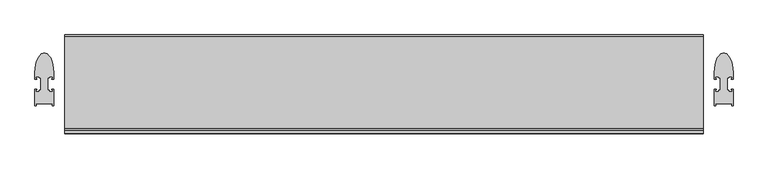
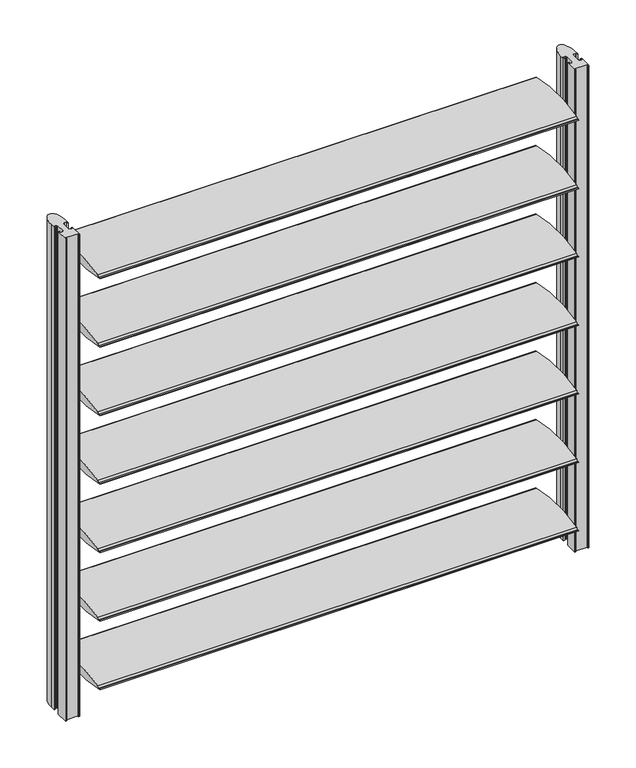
"""IFC4 building model written with IfcOpenShell, lengths in millimetres: proxy geometry, FSB_horizotal : FSB_horizotal_290."""

from ifc_helpers import new_model, si_unit, point, frame, frame_2d, origin, place, context, project, spatial, polyline, circle_curve, ellipse_curve, trimmed, segment, composite_curve, outline, extrude, source, transform, mapped, element, save
from ifc_brep_helpers import plane_surface, cylinder_surface, extruded_surface, advanced_brep


def generic_models_9e7b77c4(model_context):
    return source(origin(), model_context, "Body", "SolidModel", [
        extrude(outline(composite_curve([segment(polyline([(-145.0821859, 149.7498369), (-144.3894327, 151.8390481)]), True, "CONTINUOUS"), segment(trimmed(circle_curve(frame_2d((54.5219163, 833.1650578)), 709.7681707), [point((-144.3894327, 151.8390481))], [point((-136.4210644, 149.5631017))], True, "CARTESIAN"), True, "CONTINUOUS"), segment(trimmed(circle_curve(frame_2d((-126.8817007, 146.5663466)), 9.999), [point((-136.4210644, 149.5631017))], [point((-129.1273945, 156.3099014))], False, "CARTESIAN"), True, "CONTINUOUS"), segment(trimmed(circle_curve(frame_2d((0.0, -403.9445)), 574.9425), [point((-129.1273945, 156.3099014))], [point((140.8299634, 153.4833426))], False, "CARTESIAN"), True, "CONTINUOUS"), segment(trimmed(circle_curve(frame_2d((-57.8909579, -539.6333502)), 721.0414373), [point((140.8299634, 153.4833426))], [point((145.082804, 152.2498816))], False, "CARTESIAN"), True, "CONTINUOUS"), segment(polyline([(145.082804, 152.2498816), (144.3900508, 150.1606703)]), True, "CONTINUOUS"), segment(trimmed(circle_curve(frame_2d((-54.5212982, -531.1653394)), 709.7681707), [point((144.3900508, 150.1606703))], [point((136.4216898, 152.4366147))], True, "CARTESIAN"), True, "CONTINUOUS"), segment(trimmed(circle_curve(frame_2d((126.882471, 155.4338309)), 9.999), [point((136.4216898, 152.4366147))], [point((129.1281785, 145.6902793))], False, "CARTESIAN"), True, "CONTINUOUS"), segment(trimmed(circle_curve(frame_2d((0.0, 705.9445)), 574.9425), [point((129.1281785, 145.6902793))], [point((-140.7776523, 148.503444))], False, "CARTESIAN"), True, "CONTINUOUS"), segment(trimmed(circle_curve(frame_2d((104.6410215, 1004.135898)), 890.1332607), [point((-140.7776523, 148.503444))], [point((-145.0821859, 149.7498369))], False, "CARTESIAN"), True, "CONTINUOUS")], self_intersect=False)), frame((-939.5, 0.0, 0.0), z_axis=(1.0, 0.0, 0.0), x_axis=(0.0, 1.0, 0.0)), (0.0, 0.0, 1.0), 1879.0),
        extrude(outline(composite_curve([segment(polyline([(-145.0821859, 433.7498369), (-144.3894327, 435.8390481)]), True, "CONTINUOUS"), segment(trimmed(circle_curve(frame_2d((54.5219163, 1117.1650578)), 709.7681707), [point((-144.3894327, 435.8390481))], [point((-136.4210644, 433.5631017))], True, "CARTESIAN"), True, "CONTINUOUS"), segment(trimmed(circle_curve(frame_2d((-126.8817007, 430.5663466)), 9.999), [point((-136.4210644, 433.5631017))], [point((-129.1273945, 440.3099014))], False, "CARTESIAN"), True, "CONTINUOUS"), segment(trimmed(circle_curve(frame_2d((0.0, -119.9445)), 574.9425), [point((-129.1273945, 440.3099014))], [point((140.8299634, 437.4833426))], False, "CARTESIAN"), True, "CONTINUOUS"), segment(trimmed(circle_curve(frame_2d((-57.8909579, -255.6333502)), 721.0414373), [point((140.8299634, 437.4833426))], [point((145.082804, 436.2498816))], False, "CARTESIAN"), True, "CONTINUOUS"), segment(polyline([(145.082804, 436.2498816), (144.3900508, 434.1606703)]), True, "CONTINUOUS"), segment(trimmed(circle_curve(frame_2d((-54.5212982, -247.1653394)), 709.7681707), [point((144.3900508, 434.1606703))], [point((136.4216898, 436.4366147))], True, "CARTESIAN"), True, "CONTINUOUS"), segment(trimmed(circle_curve(frame_2d((126.882471, 439.4338309)), 9.999), [point((136.4216898, 436.4366147))], [point((129.1281785, 429.6902793))], False, "CARTESIAN"), True, "CONTINUOUS"), segment(trimmed(circle_curve(frame_2d((0.0, 989.9445)), 574.9425), [point((129.1281785, 429.6902793))], [point((-140.7776523, 432.503444))], False, "CARTESIAN"), True, "CONTINUOUS"), segment(trimmed(circle_curve(frame_2d((104.6410215, 1288.135898)), 890.1332607), [point((-140.7776523, 432.503444))], [point((-145.0821859, 433.7498369))], False, "CARTESIAN"), True, "CONTINUOUS")], self_intersect=False)), frame((-939.5, 0.0, 0.0), z_axis=(1.0, 0.0, 0.0), x_axis=(0.0, 1.0, 0.0)), (0.0, 0.0, 1.0), 1879.0),
        extrude(outline(composite_curve([segment(polyline([(-145.0821859, 717.7498369), (-144.3894327, 719.8390481)]), True, "CONTINUOUS"), segment(trimmed(circle_curve(frame_2d((54.5219163, 1401.1650578)), 709.7681707), [point((-144.3894327, 719.8390481))], [point((-136.4210644, 717.5631017))], True, "CARTESIAN"), True, "CONTINUOUS"), segment(trimmed(circle_curve(frame_2d((-126.8817007, 714.5663466)), 9.999), [point((-136.4210644, 717.5631017))], [point((-129.1273945, 724.3099014))], False, "CARTESIAN"), True, "CONTINUOUS"), segment(trimmed(circle_curve(frame_2d((0.0, 164.0555)), 574.9425), [point((-129.1273945, 724.3099014))], [point((140.8299634, 721.4833426))], False, "CARTESIAN"), True, "CONTINUOUS"), segment(trimmed(circle_curve(frame_2d((-57.8909579, 28.3666498)), 721.0414373), [point((140.8299634, 721.4833426))], [point((145.082804, 720.2498816))], False, "CARTESIAN"), True, "CONTINUOUS"), segment(polyline([(145.082804, 720.2498816), (144.3900508, 718.1606703)]), True, "CONTINUOUS"), segment(trimmed(circle_curve(frame_2d((-54.5212982, 36.8346606)), 709.7681707), [point((144.3900508, 718.1606703))], [point((136.4216898, 720.4366147))], True, "CARTESIAN"), True, "CONTINUOUS"), segment(trimmed(circle_curve(frame_2d((126.882471, 723.4338309)), 9.999), [point((136.4216898, 720.4366147))], [point((129.1281785, 713.6902793))], False, "CARTESIAN"), True, "CONTINUOUS"), segment(trimmed(circle_curve(frame_2d((0.0, 1273.9445)), 574.9425), [point((129.1281785, 713.6902793))], [point((-140.7776523, 716.503444))], False, "CARTESIAN"), True, "CONTINUOUS"), segment(trimmed(circle_curve(frame_2d((104.6410215, 1572.135898)), 890.1332607), [point((-140.7776523, 716.503444))], [point((-145.0821859, 717.7498369))], False, "CARTESIAN"), True, "CONTINUOUS")], self_intersect=False)), frame((-939.5, 0.0, 0.0), z_axis=(1.0, 0.0, 0.0), x_axis=(0.0, 1.0, 0.0)), (0.0, 0.0, 1.0), 1879.0),
        extrude(outline(composite_curve([segment(polyline([(-145.0821859, 1001.7498369), (-144.3894327, 1003.8390481)]), True, "CONTINUOUS"), segment(trimmed(circle_curve(frame_2d((54.5219163, 1685.1650578)), 709.7681707), [point((-144.3894327, 1003.8390481))], [point((-136.4210644, 1001.5631017))], True, "CARTESIAN"), True, "CONTINUOUS"), segment(trimmed(circle_curve(frame_2d((-126.8817007, 998.5663466)), 9.999), [point((-136.4210644, 1001.5631017))], [point((-129.1273945, 1008.3099014))], False, "CARTESIAN"), True, "CONTINUOUS"), segment(trimmed(circle_curve(frame_2d((0.0, 448.0555)), 574.9425), [point((-129.1273945, 1008.3099014))], [point((140.8299634, 1005.4833426))], False, "CARTESIAN"), True, "CONTINUOUS"), segment(trimmed(circle_curve(frame_2d((-57.8909579, 312.3666498)), 721.0414373), [point((140.8299634, 1005.4833426))], [point((145.082804, 1004.2498816))], False, "CARTESIAN"), True, "CONTINUOUS"), segment(polyline([(145.082804, 1004.2498816), (144.3900508, 1002.1606703)]), True, "CONTINUOUS"), segment(trimmed(circle_curve(frame_2d((-54.5212982, 320.8346606)), 709.7681707), [point((144.3900508, 1002.1606703))], [point((136.4216898, 1004.4366147))], True, "CARTESIAN"), True, "CONTINUOUS"), segment(trimmed(circle_curve(frame_2d((126.882471, 1007.4338309)), 9.999), [point((136.4216898, 1004.4366147))], [point((129.1281785, 997.6902793))], False, "CARTESIAN"), True, "CONTINUOUS"), segment(trimmed(circle_curve(frame_2d((0.0, 1557.9445)), 574.9425), [point((129.1281785, 997.6902793))], [point((-140.7776523, 1000.503444))], False, "CARTESIAN"), True, "CONTINUOUS"), segment(trimmed(circle_curve(frame_2d((104.6410215, 1856.135898)), 890.1332607), [point((-140.7776523, 1000.503444))], [point((-145.0821859, 1001.7498369))], False, "CARTESIAN"), True, "CONTINUOUS")], self_intersect=False)), frame((-939.5, 0.0, 0.0), z_axis=(1.0, 0.0, 0.0), x_axis=(0.0, 1.0, 0.0)), (0.0, 0.0, 1.0), 1879.0),
        extrude(outline(composite_curve([segment(polyline([(-145.0821859, 1285.7498369), (-144.3894327, 1287.8390481)]), True, "CONTINUOUS"), segment(trimmed(circle_curve(frame_2d((54.5219163, 1969.1650578)), 709.7681707), [point((-144.3894327, 1287.8390481))], [point((-136.4210644, 1285.5631017))], True, "CARTESIAN"), True, "CONTINUOUS"), segment(trimmed(circle_curve(frame_2d((-126.8817007, 1282.5663466)), 9.999), [point((-136.4210644, 1285.5631017))], [point((-129.1273945, 1292.3099014))], False, "CARTESIAN"), True, "CONTINUOUS"), segment(trimmed(circle_curve(frame_2d((0.0, 732.0555)), 574.9425), [point((-129.1273945, 1292.3099014))], [point((140.8299634, 1289.4833426))], False, "CARTESIAN"), True, "CONTINUOUS"), segment(trimmed(circle_curve(frame_2d((-57.8909579, 596.3666498)), 721.0414373), [point((140.8299634, 1289.4833426))], [point((145.082804, 1288.2498816))], False, "CARTESIAN"), True, "CONTINUOUS"), segment(polyline([(145.082804, 1288.2498816), (144.3900508, 1286.1606703)]), True, "CONTINUOUS"), segment(trimmed(circle_curve(frame_2d((-54.5212982, 604.8346606)), 709.7681707), [point((144.3900508, 1286.1606703))], [point((136.4216898, 1288.4366147))], True, "CARTESIAN"), True, "CONTINUOUS"), segment(trimmed(circle_curve(frame_2d((126.882471, 1291.4338309)), 9.999), [point((136.4216898, 1288.4366147))], [point((129.1281785, 1281.6902793))], False, "CARTESIAN"), True, "CONTINUOUS"), segment(trimmed(circle_curve(frame_2d((0.0, 1841.9445)), 574.9425), [point((129.1281785, 1281.6902793))], [point((-140.7776523, 1284.503444))], False, "CARTESIAN"), True, "CONTINUOUS"), segment(trimmed(circle_curve(frame_2d((104.6410215, 2140.135898)), 890.1332607), [point((-140.7776523, 1284.503444))], [point((-145.0821859, 1285.7498369))], False, "CARTESIAN"), True, "CONTINUOUS")], self_intersect=False)), frame((-939.5, 0.0, 0.0), z_axis=(1.0, 0.0, 0.0), x_axis=(0.0, 1.0, 0.0)), (0.0, 0.0, 1.0), 1879.0),
        extrude(outline(composite_curve([segment(polyline([(-145.0821859, 1569.7498369), (-144.3894327, 1571.8390481)]), True, "CONTINUOUS"), segment(trimmed(circle_curve(frame_2d((54.5219163, 2253.1650578)), 709.7681707), [point((-144.3894327, 1571.8390481))], [point((-136.4210644, 1569.5631017))], True, "CARTESIAN"), True, "CONTINUOUS"), segment(trimmed(circle_curve(frame_2d((-126.8817007, 1566.5663466)), 9.999), [point((-136.4210644, 1569.5631017))], [point((-129.1273945, 1576.3099014))], False, "CARTESIAN"), True, "CONTINUOUS"), segment(trimmed(circle_curve(frame_2d((0.0, 1016.0555)), 574.9425), [point((-129.1273945, 1576.3099014))], [point((140.8299634, 1573.4833426))], False, "CARTESIAN"), True, "CONTINUOUS"), segment(trimmed(circle_curve(frame_2d((-57.8909579, 880.3666498)), 721.0414373), [point((140.8299634, 1573.4833426))], [point((145.082804, 1572.2498816))], False, "CARTESIAN"), True, "CONTINUOUS"), segment(polyline([(145.082804, 1572.2498816), (144.3900508, 1570.1606703)]), True, "CONTINUOUS"), segment(trimmed(circle_curve(frame_2d((-54.5212982, 888.8346606)), 709.7681707), [point((144.3900508, 1570.1606703))], [point((136.4216898, 1572.4366147))], True, "CARTESIAN"), True, "CONTINUOUS"), segment(trimmed(circle_curve(frame_2d((126.882471, 1575.4338309)), 9.999), [point((136.4216898, 1572.4366147))], [point((129.1281785, 1565.6902793))], False, "CARTESIAN"), True, "CONTINUOUS"), segment(trimmed(circle_curve(frame_2d((0.0, 2125.9445)), 574.9425), [point((129.1281785, 1565.6902793))], [point((-140.7776523, 1568.503444))], False, "CARTESIAN"), True, "CONTINUOUS"), segment(trimmed(circle_curve(frame_2d((104.6410215, 2424.135898)), 890.1332607), [point((-140.7776523, 1568.503444))], [point((-145.0821859, 1569.7498369))], False, "CARTESIAN"), True, "CONTINUOUS")], self_intersect=False)), frame((-939.5, 0.0, 0.0), z_axis=(1.0, 0.0, 0.0), x_axis=(0.0, 1.0, 0.0)), (0.0, 0.0, 1.0), 1879.0),
        extrude(outline(composite_curve([segment(polyline([(-145.0821859, 1853.7498369), (-144.3894327, 1855.8390481)]), True, "CONTINUOUS"), segment(trimmed(circle_curve(frame_2d((54.5219163, 2537.1650578)), 709.7681707), [point((-144.3894327, 1855.8390481))], [point((-136.4210644, 1853.5631017))], True, "CARTESIAN"), True, "CONTINUOUS"), segment(trimmed(circle_curve(frame_2d((-126.8817007, 1850.5663466)), 9.999), [point((-136.4210644, 1853.5631017))], [point((-129.1273945, 1860.3099014))], False, "CARTESIAN"), True, "CONTINUOUS"), segment(trimmed(circle_curve(frame_2d((0.0, 1300.0555)), 574.9425), [point((-129.1273945, 1860.3099014))], [point((140.8299634, 1857.4833426))], False, "CARTESIAN"), True, "CONTINUOUS"), segment(trimmed(circle_curve(frame_2d((-57.8909579, 1164.3666498)), 721.0414373), [point((140.8299634, 1857.4833426))], [point((145.082804, 1856.2498816))], False, "CARTESIAN"), True, "CONTINUOUS"), segment(polyline([(145.082804, 1856.2498816), (144.3900508, 1854.1606703)]), True, "CONTINUOUS"), segment(trimmed(circle_curve(frame_2d((-54.5212982, 1172.8346606)), 709.7681707), [point((144.3900508, 1854.1606703))], [point((136.4216898, 1856.4366147))], True, "CARTESIAN"), True, "CONTINUOUS"), segment(trimmed(circle_curve(frame_2d((126.882471, 1859.4338309)), 9.999), [point((136.4216898, 1856.4366147))], [point((129.1281785, 1849.6902793))], False, "CARTESIAN"), True, "CONTINUOUS"), segment(trimmed(circle_curve(frame_2d((0.0, 2409.9445)), 574.9425), [point((129.1281785, 1849.6902793))], [point((-140.7776523, 1852.503444))], False, "CARTESIAN"), True, "CONTINUOUS"), segment(trimmed(circle_curve(frame_2d((104.6410215, 2708.135898)), 890.1332607), [point((-140.7776523, 1852.503444))], [point((-145.0821859, 1853.7498369))], False, "CARTESIAN"), True, "CONTINUOUS")], self_intersect=False)), frame((-939.5, 0.0, 0.0), z_axis=(1.0, 0.0, 0.0), x_axis=(0.0, 1.0, 0.0)), (0.0, 0.0, 1.0), 1879.0),
        advanced_brep(
        [(972.5005731, 35.515, 0.0), (1027.5000975, 35.515, 0.0), (1027.5000975, 14.55, 0.0), (1022.4, 14.55, 0.0), (1022.4, 16.55, 0.0), (1024.5000975, 16.55, 0.0), (1025.5000975, 17.55, 0.0), (1025.5000975, 22.175, 0.0), (1014.05, 22.175, 0.0), (1014.05, 18.5225, 0.0), (1011.0, 18.5225, 0.0), (1011.0, -18.5225, 0.0), (1014.05, -18.5225, 0.0), (1014.05, -22.175, 0.0), (1025.3000975, -22.175, 0.0), (1025.3000975, -17.55, 0.0), (1024.3000975, -16.55, 0.0), (1022.4, -16.55, 0.0), (1022.4, -14.55, 0.0), (1027.5000975, -14.55, 0.0), (1027.5000975, -63.0727525, 0.0), (1024.0000975, -63.0727525, 0.0), (1023.0000975, -62.0727525, 0.0), (1023.0000975, -60.5727525, 0.0), (1025.0000975, -60.5727525, 0.0), (1025.0000975, -57.5727525, 0.0), (974.9999025, -57.5727525, 0.0), (974.9999025, -60.5727525, 0.0), (976.9999025, -60.5727525, 0.0), (976.9999025, -62.0727525, 0.0), (975.9999025, -63.0727525, 0.0), (972.4999025, -63.0727525, 0.0), (972.4999025, -14.55, 0.0), (977.6, -14.55, 0.0), (977.6, -16.55, 0.0), (975.6999025, -16.55, 0.0), (974.6999025, -17.55, 0.0), (974.6999025, -22.175, 0.0), (985.95, -22.175, 0.0), (985.95, -18.5225, 0.0), (989.0, -18.5225, 0.0), (989.0, 18.5225, 0.0), (985.95, 18.5225, 0.0), (985.95, 22.175, 0.0), (974.4999025, 22.175, 0.0), (974.4999025, 17.55, 0.0), (975.4999025, 16.55, 0.0), (977.6, 16.55, 0.0), (977.6, 14.55, 0.0), (972.5005731, 14.55, 0.0), (972.5005731, 35.515, 2000.0), (972.5005731, 14.55, 2000.0), (977.6, 14.55, 2000.0), (977.6, 16.55, 2000.0), (975.4999025, 16.55, 2000.0), (974.4999025, 17.55, 2000.0), (974.4999025, 22.175, 2000.0), (985.95, 22.175, 2000.0), (985.95, 18.5225, 2000.0), (989.0, 18.5225, 2000.0), (989.0, -18.5225, 2000.0), (985.95, -18.5225, 2000.0), (985.95, -22.175, 2000.0), (974.6999025, -22.175, 2000.0), (974.6999025, -17.55, 2000.0), (975.6999025, -16.55, 2000.0), (977.6, -16.55, 2000.0), (977.6, -14.55, 2000.0), (972.4999025, -14.55, 2000.0), (972.4999025, -63.0727525, 2000.0), (975.9999025, -63.0727525, 2000.0), (976.9999025, -62.0727525, 2000.0), (976.9999025, -60.5727525, 2000.0), (974.9999025, -60.5727525, 2000.0), (974.9999025, -57.5727525, 2000.0), (1025.0000975, -57.5727525, 2000.0), (1025.0000975, -60.5727525, 2000.0), (1023.0000975, -60.5727525, 2000.0), (1023.0000975, -62.0727525, 2000.0), (1024.0000975, -63.0727525, 2000.0), (1027.5000975, -63.0727525, 2000.0), (1027.5000975, -14.55, 2000.0), (1022.4, -14.55, 2000.0), (1022.4, -16.55, 2000.0), (1024.3000975, -16.55, 2000.0), (1025.3000975, -17.55, 2000.0), (1025.3000975, -22.175, 2000.0), (1014.05, -22.175, 2000.0), (1014.05, -18.5225, 2000.0), (1011.0, -18.5225, 2000.0), (1011.0, 18.5225, 2000.0), (1014.05, 18.5225, 2000.0), (1014.05, 22.175, 2000.0), (1025.5000975, 22.175, 2000.0), (1025.5000975, 17.55, 2000.0), (1024.5000975, 16.55, 2000.0), (1022.4, 16.55, 2000.0), (1022.4, 14.55, 2000.0), (1027.5000975, 14.55, 2000.0), (1027.5000975, 35.515, 2000.0)],
        [
            (0, 1, ellipse_curve(frame((1000.0003353, 35.515, 0.0), z_axis=(0.0, 0.0, -1.0), x_axis=(0.0, 1.0, 0.0)), 56.4122475, 27.4997622)),
            (1, 2),
            (2, 3),
            (3, 4),
            (4, 5),
            (5, 6),
            (6, 7),
            (7, 8),
            (8, 9),
            (9, 10),
            (10, 11),
            (11, 12),
            (12, 13),
            (13, 14),
            (14, 15),
            (15, 16),
            (16, 17),
            (17, 18),
            (18, 19),
            (19, 20),
            (20, 21),
            (21, 22, circle_curve(frame((1024.0000975, -62.0727525, 0.0), z_axis=(0.0, 0.0, -1.0), x_axis=(-1.0, 0.0, 0.0)), 1.0)),
            (22, 23),
            (23, 24),
            (24, 25),
            (25, 26),
            (26, 27),
            (27, 28),
            (28, 29),
            (29, 30, circle_curve(frame((975.9999025, -62.0727525, 0.0), z_axis=(0.0, 0.0, -1.0), x_axis=(0.0, -1.0, 0.0)), 1.0)),
            (30, 31),
            (31, 32),
            (32, 33),
            (33, 34),
            (34, 35),
            (35, 36),
            (36, 37),
            (37, 38),
            (38, 39),
            (39, 40),
            (40, 41),
            (41, 42),
            (42, 43),
            (43, 44),
            (44, 45),
            (45, 46),
            (46, 47),
            (47, 48),
            (48, 49),
            (49, 0),
            (50, 51),
            (51, 52),
            (52, 53),
            (53, 54),
            (54, 55),
            (55, 56),
            (56, 57),
            (57, 58),
            (58, 59),
            (59, 60),
            (60, 61),
            (61, 62),
            (62, 63),
            (63, 64),
            (64, 65),
            (65, 66),
            (66, 67),
            (67, 68),
            (68, 69),
            (69, 70),
            (70, 71, circle_curve(frame((975.9999025, -62.0727525, 2000.0), z_axis=(0.0, 0.0, 1.0), x_axis=(0.0, -1.0, 0.0)), 1.0)),
            (71, 72),
            (72, 73),
            (73, 74),
            (74, 75),
            (75, 76),
            (76, 77),
            (77, 78),
            (78, 79, circle_curve(frame((1024.0000975, -62.0727525, 2000.0), z_axis=(0.0, 0.0, 1.0), x_axis=(-1.0, 0.0, 0.0)), 1.0)),
            (79, 80),
            (80, 81),
            (81, 82),
            (82, 83),
            (83, 84),
            (84, 85),
            (85, 86),
            (86, 87),
            (87, 88),
            (88, 89),
            (89, 90),
            (90, 91),
            (91, 92),
            (92, 93),
            (93, 94),
            (94, 95),
            (95, 96),
            (96, 97),
            (97, 98),
            (98, 99),
            (99, 50, ellipse_curve(frame((1000.0003353, 35.515, 2000.0), z_axis=(0.0, 0.0, 1.0), x_axis=(0.0, 1.0, 0.0)), 56.4122475, 27.4997622)),
            (0, 50),
            (99, 1),
            (98, 2),
            (97, 3),
            (96, 4),
            (95, 5),
            (94, 6),
            (93, 7),
            (92, 8),
            (91, 9),
            (90, 10),
            (89, 11),
            (88, 12),
            (87, 13),
            (86, 14),
            (85, 15),
            (84, 16),
            (83, 17),
            (82, 18),
            (81, 19),
            (80, 20),
            (79, 21),
            (78, 22),
            (77, 23),
            (76, 24),
            (75, 25),
            (74, 26),
            (73, 27),
            (72, 28),
            (71, 29),
            (70, 30),
            (69, 31),
            (68, 32),
            (67, 33),
            (66, 34),
            (65, 35),
            (64, 36),
            (63, 37),
            (62, 38),
            (61, 39),
            (60, 40),
            (59, 41),
            (58, 42),
            (57, 43),
            (56, 44),
            (55, 45),
            (54, 46),
            (53, 47),
            (52, 48),
            (51, 49),
        ],
        [
            plane_surface(frame((1000.0, 0.0, 0.0), z_axis=(0.0, 0.0, -1.0), x_axis=(0.0, -1.0, 0.0))),
            plane_surface(frame((1000.0, 0.0, 2000.0), z_axis=(0.0, 0.0, 1.0), x_axis=(0.0, -1.0, 0.0))),
            extruded_surface(trimmed(ellipse_curve(frame((1000.0003353, 35.515, 2000.0), z_axis=(0.0, 0.0, -1.0), x_axis=(0.0, 1.0, 0.0)), 56.4122475, 27.4997622), [point((972.5005731, 35.515, 2000.0))], [point((1027.5000975, 35.515, 2000.0))], True, "CARTESIAN"), (0.0, 0.0, -2000.0), 2000.0),
            plane_surface(frame((1027.5000975, 35.515, 0.0), z_axis=(1.0, 0.0, 0.0), x_axis=(0.0, 0.0, 1.0))),
            plane_surface(frame((1027.5000975, 14.55, 0.0), z_axis=(0.0, -1.0, 0.0), x_axis=(0.0, 0.0, 1.0))),
            plane_surface(frame((1022.4, 14.55, 0.0), z_axis=(-1.0, 0.0, 0.0), x_axis=(0.0, 0.0, 1.0))),
            plane_surface(frame((1022.4, 16.55, 0.0), z_axis=(0.0, 1.0, 0.0), x_axis=(0.0, 0.0, 1.0))),
            plane_surface(frame((1024.5000975, 16.55, 0.0), z_axis=(-0.707106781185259, 0.707106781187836, 0.0), x_axis=(0.0, 0.0, 1.0))),
            plane_surface(frame((1025.5000975, 17.55, 0.0), z_axis=(-1.0, 0.0, 0.0), x_axis=(0.0, 0.0, 1.0))),
            plane_surface(frame((1025.5000975, 22.175, 0.0), z_axis=(0.0, -1.0, 0.0), x_axis=(0.0, 0.0, 1.0))),
            plane_surface(frame((1014.05, 22.175, 0.0), z_axis=(1.0, 0.0, 0.0), x_axis=(0.0, 0.0, 1.0))),
            plane_surface(frame((1014.05, 18.5225, 0.0), z_axis=(0.0, -1.0, 0.0), x_axis=(0.0, 0.0, 1.0))),
            plane_surface(frame((1011.0, 18.5225, 0.0), z_axis=(1.0, 0.0, 0.0), x_axis=(0.0, 0.0, 1.0))),
            plane_surface(frame((1011.0, -18.5225, 0.0), z_axis=(0.0, 1.0, 0.0), x_axis=(0.0, 0.0, 1.0))),
            plane_surface(frame((1014.05, -18.5225, 0.0), z_axis=(1.0, 0.0, 0.0), x_axis=(0.0, 0.0, 1.0))),
            plane_surface(frame((1014.05, -22.175, 0.0), z_axis=(0.0, 1.0, 0.0), x_axis=(0.0, 0.0, 1.0))),
            plane_surface(frame((1025.3000975, -22.175, 0.0), z_axis=(-1.0, 0.0, 0.0), x_axis=(0.0, 0.0, 1.0))),
            plane_surface(frame((1025.3000975, -17.55, 0.0), z_axis=(-0.7071067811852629, -0.7071067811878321, 0.0), x_axis=(0.0, 0.0, 1.0))),
            plane_surface(frame((1024.3000975, -16.55, 0.0), z_axis=(0.0, -1.0, 0.0), x_axis=(0.0, 0.0, 1.0))),
            plane_surface(frame((1022.4, -16.55, 0.0), z_axis=(-1.0, 0.0, 0.0), x_axis=(0.0, 0.0, 1.0))),
            plane_surface(frame((1022.4, -14.55, 0.0), z_axis=(0.0, 1.0, 0.0), x_axis=(0.0, 0.0, 1.0))),
            plane_surface(frame((1027.5000975, -14.55, 0.0), z_axis=(1.0, 0.0, 0.0), x_axis=(0.0, 0.0, 1.0))),
            plane_surface(frame((1027.5000975, -63.0727525, 0.0), z_axis=(0.0, -1.0, 0.0), x_axis=(0.0, 0.0, 1.0))),
            cylinder_surface(frame((1024.0000975, -62.0727525, 0.0), z_axis=(0.0, 0.0, -1.0), x_axis=(-1.0, 0.0, 0.0)), 1.0),
            plane_surface(frame((1023.0000975, -62.0727525, 0.0), z_axis=(-1.0, 0.0, 0.0), x_axis=(0.0, 0.0, 1.0))),
            plane_surface(frame((1023.0000975, -60.5727525, 0.0), z_axis=(0.0, 1.0, 0.0), x_axis=(0.0, 0.0, 1.0))),
            plane_surface(frame((1025.0000975, -60.5727525, 0.0), z_axis=(-1.0, 0.0, 0.0), x_axis=(0.0, 0.0, 1.0))),
            plane_surface(frame((1025.0000975, -57.5727525, 0.0), z_axis=(0.0, -1.0, 0.0), x_axis=(0.0, 0.0, 1.0))),
            plane_surface(frame((974.9999025, -57.5727525, 0.0), z_axis=(1.0, 0.0, 0.0), x_axis=(0.0, 0.0, 1.0))),
            plane_surface(frame((974.9999025, -60.5727525, 0.0), z_axis=(0.0, 1.0, 0.0), x_axis=(0.0, 0.0, 1.0))),
            plane_surface(frame((976.9999025, -60.5727525, 0.0), z_axis=(1.0, 0.0, 0.0), x_axis=(0.0, 0.0, 1.0))),
            cylinder_surface(frame((975.9999025, -62.0727525, 0.0), z_axis=(0.0, 0.0, -1.0), x_axis=(0.0, -1.0, 0.0)), 1.0),
            plane_surface(frame((975.9999025, -63.0727525, 0.0), z_axis=(0.0, -1.0, 0.0), x_axis=(0.0, 0.0, 1.0))),
            plane_surface(frame((972.4999025, -63.0727525, 0.0), z_axis=(-1.0, 0.0, 0.0), x_axis=(0.0, 0.0, 1.0))),
            plane_surface(frame((972.4999025, -14.55, 0.0), z_axis=(0.0, 1.0, 0.0), x_axis=(0.0, 0.0, 1.0))),
            plane_surface(frame((977.6, -14.55, 0.0), z_axis=(1.0, 0.0, 0.0), x_axis=(0.0, 0.0, 1.0))),
            plane_surface(frame((977.6, -16.55, 0.0), z_axis=(0.0, -1.0, 0.0), x_axis=(0.0, 0.0, 1.0))),
            plane_surface(frame((975.6999025, -16.55, 0.0), z_axis=(0.7071067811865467, -0.7071067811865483, 0.0), x_axis=(0.0, 0.0, 1.0))),
            plane_surface(frame((974.6999025, -17.55, 0.0), z_axis=(1.0, 0.0, 0.0), x_axis=(0.0, 0.0, 1.0))),
            plane_surface(frame((974.6999025, -22.175, 0.0), z_axis=(0.0, 1.0, 0.0), x_axis=(0.0, 0.0, 1.0))),
            plane_surface(frame((985.95, -22.175, 0.0), z_axis=(-1.0, 0.0, 0.0), x_axis=(0.0, 0.0, 1.0))),
            plane_surface(frame((985.95, -18.5225, 0.0), z_axis=(0.0, 1.0, 0.0), x_axis=(0.0, 0.0, 1.0))),
            plane_surface(frame((989.0, -18.5225, 0.0), z_axis=(-1.0, 0.0, 0.0), x_axis=(0.0, 0.0, 1.0))),
            plane_surface(frame((989.0, 18.5225, 0.0), z_axis=(0.0, -1.0, 0.0), x_axis=(0.0, 0.0, 1.0))),
            plane_surface(frame((985.95, 18.5225, 0.0), z_axis=(-1.0, 0.0, 0.0), x_axis=(0.0, 0.0, 1.0))),
            plane_surface(frame((985.95, 22.175, 0.0), z_axis=(0.0, -1.0, 0.0), x_axis=(0.0, 0.0, 1.0))),
            plane_surface(frame((974.4999025, 22.175, 0.0), z_axis=(1.0, 0.0, 0.0), x_axis=(0.0, 0.0, 1.0))),
            plane_surface(frame((974.4999025, 17.55, 0.0), z_axis=(0.7071067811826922, 0.7071067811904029, 0.0), x_axis=(0.0, 0.0, 1.0))),
            plane_surface(frame((975.4999025, 16.55, 0.0), z_axis=(0.0, 1.0, 0.0), x_axis=(0.0, 0.0, 1.0))),
            plane_surface(frame((977.6, 16.55, 0.0), z_axis=(1.0, 0.0, 0.0), x_axis=(0.0, 0.0, 1.0))),
            plane_surface(frame((977.6, 14.55, 0.0), z_axis=(0.0, -1.0, 0.0), x_axis=(0.0, 0.0, 1.0))),
            plane_surface(frame((972.5005731, 14.55, 0.0), z_axis=(-1.0, 0.0, 0.0), x_axis=(0.0, 0.0, 1.0))),
        ],
        [
            (0, [[1, 2, 3, 4, 5, 6, 7, 8, 9, 10, 11, 12, 13, 14, 15, 16, 17, 18, 19, 20, 21, 22, 23, 24, 25, 26, 27, 28, 29, 30, 31, 32, 33, 34, 35, 36, 37, 38, 39, 40, 41, 42, 43, 44, 45, 46, 47, 48, 49, 50]]),
            (1, [[51, 52, 53, 54, 55, 56, 57, 58, 59, 60, 61, 62, 63, 64, 65, 66, 67, 68, 69, 70, 71, 72, 73, 74, 75, 76, 77, 78, 79, 80, 81, 82, 83, 84, 85, 86, 87, 88, 89, 90, 91, 92, 93, 94, 95, 96, 97, 98, 99, 100]]),
            (2, [[-1, 101, -100, 102]]),
            (3, [[-2, -102, -99, 103]]),
            (4, [[-3, -103, -98, 104]]),
            (5, [[-4, -104, -97, 105]]),
            (6, [[-5, -105, -96, 106]]),
            (7, [[-6, -106, -95, 107]]),
            (8, [[-7, -107, -94, 108]]),
            (9, [[-8, -108, -93, 109]]),
            (10, [[-9, -109, -92, 110]]),
            (11, [[-10, -110, -91, 111]]),
            (12, [[-11, -111, -90, 112]]),
            (13, [[-12, -112, -89, 113]]),
            (14, [[-13, -113, -88, 114]]),
            (15, [[-14, -114, -87, 115]]),
            (16, [[-15, -115, -86, 116]]),
            (17, [[-16, -116, -85, 117]]),
            (18, [[-17, -117, -84, 118]]),
            (19, [[-18, -118, -83, 119]]),
            (20, [[-19, -119, -82, 120]]),
            (21, [[-20, -120, -81, 121]]),
            (22, [[-21, -121, -80, 122]]),
            (23, [[-22, -122, -79, 123]]),
            (24, [[-23, -123, -78, 124]]),
            (25, [[-24, -124, -77, 125]]),
            (26, [[-25, -125, -76, 126]]),
            (27, [[-26, -126, -75, 127]]),
            (28, [[-27, -127, -74, 128]]),
            (29, [[-28, -128, -73, 129]]),
            (30, [[-29, -129, -72, 130]]),
            (31, [[-30, -130, -71, 131]]),
            (32, [[-31, -131, -70, 132]]),
            (33, [[-32, -132, -69, 133]]),
            (34, [[-33, -133, -68, 134]]),
            (35, [[-34, -134, -67, 135]]),
            (36, [[-35, -135, -66, 136]]),
            (37, [[-36, -136, -65, 137]]),
            (38, [[-37, -137, -64, 138]]),
            (39, [[-38, -138, -63, 139]]),
            (40, [[-39, -139, -62, 140]]),
            (41, [[-40, -140, -61, 141]]),
            (42, [[-41, -141, -60, 142]]),
            (43, [[-42, -142, -59, 143]]),
            (44, [[-43, -143, -58, 144]]),
            (45, [[-44, -144, -57, 145]]),
            (46, [[-45, -145, -56, 146]]),
            (47, [[-46, -146, -55, 147]]),
            (48, [[-47, -147, -54, 148]]),
            (49, [[-48, -148, -53, 149]]),
            (50, [[-49, -149, -52, 150]]),
            (51, [[-50, -150, -51, -101]]),
        ],
    ),
        advanced_brep(
        [(-1027.4994269, 35.515, 0.0), (-972.4999025, 35.515, 0.0), (-972.4999025, 14.55, 0.0), (-977.6, 14.55, 0.0), (-977.6, 16.55, 0.0), (-975.4999025, 16.55, 0.0), (-974.4999025, 17.55, 0.0), (-974.4999025, 22.175, 0.0), (-985.95, 22.175, 0.0), (-985.95, 18.5225, 0.0), (-989.0, 18.5225, 0.0), (-989.0, -18.5225, 0.0), (-985.95, -18.5225, 0.0), (-985.95, -22.175, 0.0), (-974.6999025, -22.175, 0.0), (-974.6999025, -17.55, 0.0), (-975.6999025, -16.55, 0.0), (-977.6, -16.55, 0.0), (-977.6, -14.55, 0.0), (-972.4999025, -14.55, 0.0), (-972.4999025, -63.0727525, 0.0), (-975.9999025, -63.0727525, 0.0), (-976.9999025, -62.0727525, 0.0), (-976.9999025, -60.5727525, 0.0), (-974.9999025, -60.5727525, 0.0), (-974.9999025, -57.5727525, 0.0), (-1025.0000975, -57.5727525, 0.0), (-1025.0000975, -60.5727525, 0.0), (-1023.0000975, -60.5727525, 0.0), (-1023.0000975, -62.0727525, 0.0), (-1024.0000975, -63.0727525, 0.0), (-1027.5000975, -63.0727525, 0.0), (-1027.5000975, -14.55, 0.0), (-1022.4, -14.55, 0.0), (-1022.4, -16.55, 0.0), (-1024.3000975, -16.55, 0.0), (-1025.3000975, -17.55, 0.0), (-1025.3000975, -22.175, 0.0), (-1014.05, -22.175, 0.0), (-1014.05, -18.5225, 0.0), (-1011.0, -18.5225, 0.0), (-1011.0, 18.5225, 0.0), (-1014.05, 18.5225, 0.0), (-1014.05, 22.175, 0.0), (-1025.5000975, 22.175, 0.0), (-1025.5000975, 17.55, 0.0), (-1024.5000975, 16.55, 0.0), (-1022.4, 16.55, 0.0), (-1022.4, 14.55, 0.0), (-1027.4994269, 14.55, 0.0), (-1027.4994269, 35.515, 2000.0), (-1027.4994269, 14.55, 2000.0), (-1022.4, 14.55, 2000.0), (-1022.4, 16.55, 2000.0), (-1024.5000975, 16.55, 2000.0), (-1025.5000975, 17.55, 2000.0), (-1025.5000975, 22.175, 2000.0), (-1014.05, 22.175, 2000.0), (-1014.05, 18.5225, 2000.0), (-1011.0, 18.5225, 2000.0), (-1011.0, -18.5225, 2000.0), (-1014.05, -18.5225, 2000.0), (-1014.05, -22.175, 2000.0), (-1025.3000975, -22.175, 2000.0), (-1025.3000975, -17.55, 2000.0), (-1024.3000975, -16.55, 2000.0), (-1022.4, -16.55, 2000.0), (-1022.4, -14.55, 2000.0), (-1027.5000975, -14.55, 2000.0), (-1027.5000975, -63.0727525, 2000.0), (-1024.0000975, -63.0727525, 2000.0), (-1023.0000975, -62.0727525, 2000.0), (-1023.0000975, -60.5727525, 2000.0), (-1025.0000975, -60.5727525, 2000.0), (-1025.0000975, -57.5727525, 2000.0), (-974.9999025, -57.5727525, 2000.0), (-974.9999025, -60.5727525, 2000.0), (-976.9999025, -60.5727525, 2000.0), (-976.9999025, -62.0727525, 2000.0), (-975.9999025, -63.0727525, 2000.0), (-972.4999025, -63.0727525, 2000.0), (-972.4999025, -14.55, 2000.0), (-977.6, -14.55, 2000.0), (-977.6, -16.55, 2000.0), (-975.6999025, -16.55, 2000.0), (-974.6999025, -17.55, 2000.0), (-974.6999025, -22.175, 2000.0), (-985.95, -22.175, 2000.0), (-985.95, -18.5225, 2000.0), (-989.0, -18.5225, 2000.0), (-989.0, 18.5225, 2000.0), (-985.95, 18.5225, 2000.0), (-985.95, 22.175, 2000.0), (-974.4999025, 22.175, 2000.0), (-974.4999025, 17.55, 2000.0), (-975.4999025, 16.55, 2000.0), (-977.6, 16.55, 2000.0), (-977.6, 14.55, 2000.0), (-972.4999025, 14.55, 2000.0), (-972.4999025, 35.515, 2000.0)],
        [
            (0, 1, ellipse_curve(frame((-999.9996647, 35.515, 0.0), z_axis=(0.0, 0.0, -1.0), x_axis=(0.0, 1.0, 0.0)), 56.4122475, 27.4997622)),
            (1, 2),
            (2, 3),
            (3, 4),
            (4, 5),
            (5, 6),
            (6, 7),
            (7, 8),
            (8, 9),
            (9, 10),
            (10, 11),
            (11, 12),
            (12, 13),
            (13, 14),
            (14, 15),
            (15, 16),
            (16, 17),
            (17, 18),
            (18, 19),
            (19, 20),
            (20, 21),
            (21, 22, circle_curve(frame((-975.9999025, -62.0727525, 0.0), z_axis=(0.0, 0.0, -1.0), x_axis=(-1.0, 0.0, 0.0)), 1.0)),
            (22, 23),
            (23, 24),
            (24, 25),
            (25, 26),
            (26, 27),
            (27, 28),
            (28, 29),
            (29, 30, circle_curve(frame((-1024.0000975, -62.0727525, 0.0), z_axis=(0.0, 0.0, -1.0), x_axis=(0.0, -1.0, 0.0)), 1.0)),
            (30, 31),
            (31, 32),
            (32, 33),
            (33, 34),
            (34, 35),
            (35, 36),
            (36, 37),
            (37, 38),
            (38, 39),
            (39, 40),
            (40, 41),
            (41, 42),
            (42, 43),
            (43, 44),
            (44, 45),
            (45, 46),
            (46, 47),
            (47, 48),
            (48, 49),
            (49, 0),
            (50, 51),
            (51, 52),
            (52, 53),
            (53, 54),
            (54, 55),
            (55, 56),
            (56, 57),
            (57, 58),
            (58, 59),
            (59, 60),
            (60, 61),
            (61, 62),
            (62, 63),
            (63, 64),
            (64, 65),
            (65, 66),
            (66, 67),
            (67, 68),
            (68, 69),
            (69, 70),
            (70, 71, circle_curve(frame((-1024.0000975, -62.0727525, 2000.0), z_axis=(0.0, 0.0, 1.0), x_axis=(0.0, -1.0, 0.0)), 1.0)),
            (71, 72),
            (72, 73),
            (73, 74),
            (74, 75),
            (75, 76),
            (76, 77),
            (77, 78),
            (78, 79, circle_curve(frame((-975.9999025, -62.0727525, 2000.0), z_axis=(0.0, 0.0, 1.0), x_axis=(-1.0, 0.0, 0.0)), 1.0)),
            (79, 80),
            (80, 81),
            (81, 82),
            (82, 83),
            (83, 84),
            (84, 85),
            (85, 86),
            (86, 87),
            (87, 88),
            (88, 89),
            (89, 90),
            (90, 91),
            (91, 92),
            (92, 93),
            (93, 94),
            (94, 95),
            (95, 96),
            (96, 97),
            (97, 98),
            (98, 99),
            (99, 50, ellipse_curve(frame((-999.9996647, 35.515, 2000.0), z_axis=(0.0, 0.0, 1.0), x_axis=(0.0, 1.0, 0.0)), 56.4122475, 27.4997622)),
            (0, 50),
            (99, 1),
            (98, 2),
            (97, 3),
            (96, 4),
            (95, 5),
            (94, 6),
            (93, 7),
            (92, 8),
            (91, 9),
            (90, 10),
            (89, 11),
            (88, 12),
            (87, 13),
            (86, 14),
            (85, 15),
            (84, 16),
            (83, 17),
            (82, 18),
            (81, 19),
            (80, 20),
            (79, 21),
            (78, 22),
            (77, 23),
            (76, 24),
            (75, 25),
            (74, 26),
            (73, 27),
            (72, 28),
            (71, 29),
            (70, 30),
            (69, 31),
            (68, 32),
            (67, 33),
            (66, 34),
            (65, 35),
            (64, 36),
            (63, 37),
            (62, 38),
            (61, 39),
            (60, 40),
            (59, 41),
            (58, 42),
            (57, 43),
            (56, 44),
            (55, 45),
            (54, 46),
            (53, 47),
            (52, 48),
            (51, 49),
        ],
        [
            plane_surface(frame((-1000.0, 0.0, 0.0), z_axis=(0.0, 0.0, -1.0), x_axis=(0.0, -1.0, 0.0))),
            plane_surface(frame((-1000.0, 0.0, 2000.0), z_axis=(0.0, 0.0, 1.0), x_axis=(0.0, -1.0, 0.0))),
            extruded_surface(trimmed(ellipse_curve(frame((-999.9996647, 35.515, 2000.0), z_axis=(0.0, 0.0, -1.0), x_axis=(0.0, 1.0, 0.0)), 56.4122475, 27.4997622), [point((-1027.4994269, 35.515, 2000.0))], [point((-972.4999025, 35.515, 2000.0))], True, "CARTESIAN"), (0.0, 0.0, -2000.0), 2000.0),
            plane_surface(frame((-972.4999025, 35.515, 0.0), z_axis=(1.0, 0.0, 0.0), x_axis=(0.0, 0.0, 1.0))),
            plane_surface(frame((-972.4999025, 14.55, 0.0), z_axis=(0.0, -1.0, 0.0), x_axis=(0.0, 0.0, 1.0))),
            plane_surface(frame((-977.6, 14.55, 0.0), z_axis=(-1.0, 0.0, 0.0), x_axis=(0.0, 0.0, 1.0))),
            plane_surface(frame((-977.6, 16.55, 0.0), z_axis=(0.0, 1.0, 0.0), x_axis=(0.0, 0.0, 1.0))),
            plane_surface(frame((-975.4999025, 16.55, 0.0), z_axis=(-0.707106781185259, 0.707106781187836, 0.0), x_axis=(0.0, 0.0, 1.0))),
            plane_surface(frame((-974.4999025, 17.55, 0.0), z_axis=(-1.0, 0.0, 0.0), x_axis=(0.0, 0.0, 1.0))),
            plane_surface(frame((-974.4999025, 22.175, 0.0), z_axis=(0.0, -1.0, 0.0), x_axis=(0.0, 0.0, 1.0))),
            plane_surface(frame((-985.95, 22.175, 0.0), z_axis=(1.0, 0.0, 0.0), x_axis=(0.0, 0.0, 1.0))),
            plane_surface(frame((-985.95, 18.5225, 0.0), z_axis=(0.0, -1.0, 0.0), x_axis=(0.0, 0.0, 1.0))),
            plane_surface(frame((-989.0, 18.5225, 0.0), z_axis=(1.0, 0.0, 0.0), x_axis=(0.0, 0.0, 1.0))),
            plane_surface(frame((-989.0, -18.5225, 0.0), z_axis=(0.0, 1.0, 0.0), x_axis=(0.0, 0.0, 1.0))),
            plane_surface(frame((-985.95, -18.5225, 0.0), z_axis=(1.0, 0.0, 0.0), x_axis=(0.0, 0.0, 1.0))),
            plane_surface(frame((-985.95, -22.175, 0.0), z_axis=(0.0, 1.0, 0.0), x_axis=(0.0, 0.0, 1.0))),
            plane_surface(frame((-974.6999025, -22.175, 0.0), z_axis=(-1.0, 0.0, 0.0), x_axis=(0.0, 0.0, 1.0))),
            plane_surface(frame((-974.6999025, -17.55, 0.0), z_axis=(-0.7071067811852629, -0.7071067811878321, 0.0), x_axis=(0.0, 0.0, 1.0))),
            plane_surface(frame((-975.6999025, -16.55, 0.0), z_axis=(0.0, -1.0, 0.0), x_axis=(0.0, 0.0, 1.0))),
            plane_surface(frame((-977.6, -16.55, 0.0), z_axis=(-1.0, 0.0, 0.0), x_axis=(0.0, 0.0, 1.0))),
            plane_surface(frame((-977.6, -14.55, 0.0), z_axis=(0.0, 1.0, 0.0), x_axis=(0.0, 0.0, 1.0))),
            plane_surface(frame((-972.4999025, -14.55, 0.0), z_axis=(1.0, 0.0, 0.0), x_axis=(0.0, 0.0, 1.0))),
            plane_surface(frame((-972.4999025, -63.0727525, 0.0), z_axis=(0.0, -1.0, 0.0), x_axis=(0.0, 0.0, 1.0))),
            cylinder_surface(frame((-975.9999025, -62.0727525, 0.0), z_axis=(0.0, 0.0, -1.0), x_axis=(-1.0, 0.0, 0.0)), 1.0),
            plane_surface(frame((-976.9999025, -62.0727525, 0.0), z_axis=(-1.0, 0.0, 0.0), x_axis=(0.0, 0.0, 1.0))),
            plane_surface(frame((-976.9999025, -60.5727525, 0.0), z_axis=(0.0, 1.0, 0.0), x_axis=(0.0, 0.0, 1.0))),
            plane_surface(frame((-974.9999025, -60.5727525, 0.0), z_axis=(-1.0, 0.0, 0.0), x_axis=(0.0, 0.0, 1.0))),
            plane_surface(frame((-974.9999025, -57.5727525, 0.0), z_axis=(0.0, -1.0, 0.0), x_axis=(0.0, 0.0, 1.0))),
            plane_surface(frame((-1025.0000975, -57.5727525, 0.0), z_axis=(1.0, 0.0, 0.0), x_axis=(0.0, 0.0, 1.0))),
            plane_surface(frame((-1025.0000975, -60.5727525, 0.0), z_axis=(0.0, 1.0, 0.0), x_axis=(0.0, 0.0, 1.0))),
            plane_surface(frame((-1023.0000975, -60.5727525, 0.0), z_axis=(1.0, 0.0, 0.0), x_axis=(0.0, 0.0, 1.0))),
            cylinder_surface(frame((-1024.0000975, -62.0727525, 0.0), z_axis=(0.0, 0.0, -1.0), x_axis=(0.0, -1.0, 0.0)), 1.0),
            plane_surface(frame((-1024.0000975, -63.0727525, 0.0), z_axis=(0.0, -1.0, 0.0), x_axis=(0.0, 0.0, 1.0))),
            plane_surface(frame((-1027.5000975, -63.0727525, 0.0), z_axis=(-1.0, 0.0, 0.0), x_axis=(0.0, 0.0, 1.0))),
            plane_surface(frame((-1027.5000975, -14.55, 0.0), z_axis=(0.0, 1.0, 0.0), x_axis=(0.0, 0.0, 1.0))),
            plane_surface(frame((-1022.4, -14.55, 0.0), z_axis=(1.0, 0.0, 0.0), x_axis=(0.0, 0.0, 1.0))),
            plane_surface(frame((-1022.4, -16.55, 0.0), z_axis=(0.0, -1.0, 0.0), x_axis=(0.0, 0.0, 1.0))),
            plane_surface(frame((-1024.3000975, -16.55, 0.0), z_axis=(0.7071067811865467, -0.7071067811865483, 0.0), x_axis=(0.0, 0.0, 1.0))),
            plane_surface(frame((-1025.3000975, -17.55, 0.0), z_axis=(1.0, 0.0, 0.0), x_axis=(0.0, 0.0, 1.0))),
            plane_surface(frame((-1025.3000975, -22.175, 0.0), z_axis=(0.0, 1.0, 0.0), x_axis=(0.0, 0.0, 1.0))),
            plane_surface(frame((-1014.05, -22.175, 0.0), z_axis=(-1.0, 0.0, 0.0), x_axis=(0.0, 0.0, 1.0))),
            plane_surface(frame((-1014.05, -18.5225, 0.0), z_axis=(0.0, 1.0, 0.0), x_axis=(0.0, 0.0, 1.0))),
            plane_surface(frame((-1011.0, -18.5225, 0.0), z_axis=(-1.0, 0.0, 0.0), x_axis=(0.0, 0.0, 1.0))),
            plane_surface(frame((-1011.0, 18.5225, 0.0), z_axis=(0.0, -1.0, 0.0), x_axis=(0.0, 0.0, 1.0))),
            plane_surface(frame((-1014.05, 18.5225, 0.0), z_axis=(-1.0, 0.0, 0.0), x_axis=(0.0, 0.0, 1.0))),
            plane_surface(frame((-1014.05, 22.175, 0.0), z_axis=(0.0, -1.0, 0.0), x_axis=(0.0, 0.0, 1.0))),
            plane_surface(frame((-1025.5000975, 22.175, 0.0), z_axis=(1.0, 0.0, 0.0), x_axis=(0.0, 0.0, 1.0))),
            plane_surface(frame((-1025.5000975, 17.55, 0.0), z_axis=(0.7071067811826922, 0.7071067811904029, 0.0), x_axis=(0.0, 0.0, 1.0))),
            plane_surface(frame((-1024.5000975, 16.55, 0.0), z_axis=(0.0, 1.0, 0.0), x_axis=(0.0, 0.0, 1.0))),
            plane_surface(frame((-1022.4, 16.55, 0.0), z_axis=(1.0, 0.0, 0.0), x_axis=(0.0, 0.0, 1.0))),
            plane_surface(frame((-1022.4, 14.55, 0.0), z_axis=(0.0, -1.0, 0.0), x_axis=(0.0, 0.0, 1.0))),
            plane_surface(frame((-1027.4994269, 14.55, 0.0), z_axis=(-1.0, 0.0, 0.0), x_axis=(0.0, 0.0, 1.0))),
        ],
        [
            (0, [[1, 2, 3, 4, 5, 6, 7, 8, 9, 10, 11, 12, 13, 14, 15, 16, 17, 18, 19, 20, 21, 22, 23, 24, 25, 26, 27, 28, 29, 30, 31, 32, 33, 34, 35, 36, 37, 38, 39, 40, 41, 42, 43, 44, 45, 46, 47, 48, 49, 50]]),
            (1, [[51, 52, 53, 54, 55, 56, 57, 58, 59, 60, 61, 62, 63, 64, 65, 66, 67, 68, 69, 70, 71, 72, 73, 74, 75, 76, 77, 78, 79, 80, 81, 82, 83, 84, 85, 86, 87, 88, 89, 90, 91, 92, 93, 94, 95, 96, 97, 98, 99, 100]]),
            (2, [[-1, 101, -100, 102]]),
            (3, [[-2, -102, -99, 103]]),
            (4, [[-3, -103, -98, 104]]),
            (5, [[-4, -104, -97, 105]]),
            (6, [[-5, -105, -96, 106]]),
            (7, [[-6, -106, -95, 107]]),
            (8, [[-7, -107, -94, 108]]),
            (9, [[-8, -108, -93, 109]]),
            (10, [[-9, -109, -92, 110]]),
            (11, [[-10, -110, -91, 111]]),
            (12, [[-11, -111, -90, 112]]),
            (13, [[-12, -112, -89, 113]]),
            (14, [[-13, -113, -88, 114]]),
            (15, [[-14, -114, -87, 115]]),
            (16, [[-15, -115, -86, 116]]),
            (17, [[-16, -116, -85, 117]]),
            (18, [[-17, -117, -84, 118]]),
            (19, [[-18, -118, -83, 119]]),
            (20, [[-19, -119, -82, 120]]),
            (21, [[-20, -120, -81, 121]]),
            (22, [[-21, -121, -80, 122]]),
            (23, [[-22, -122, -79, 123]]),
            (24, [[-23, -123, -78, 124]]),
            (25, [[-24, -124, -77, 125]]),
            (26, [[-25, -125, -76, 126]]),
            (27, [[-26, -126, -75, 127]]),
            (28, [[-27, -127, -74, 128]]),
            (29, [[-28, -128, -73, 129]]),
            (30, [[-29, -129, -72, 130]]),
            (31, [[-30, -130, -71, 131]]),
            (32, [[-31, -131, -70, 132]]),
            (33, [[-32, -132, -69, 133]]),
            (34, [[-33, -133, -68, 134]]),
            (35, [[-34, -134, -67, 135]]),
            (36, [[-35, -135, -66, 136]]),
            (37, [[-36, -136, -65, 137]]),
            (38, [[-37, -137, -64, 138]]),
            (39, [[-38, -138, -63, 139]]),
            (40, [[-39, -139, -62, 140]]),
            (41, [[-40, -140, -61, 141]]),
            (42, [[-41, -141, -60, 142]]),
            (43, [[-42, -142, -59, 143]]),
            (44, [[-43, -143, -58, 144]]),
            (45, [[-44, -144, -57, 145]]),
            (46, [[-45, -145, -56, 146]]),
            (47, [[-46, -146, -55, 147]]),
            (48, [[-47, -147, -54, 148]]),
            (49, [[-48, -148, -53, 149]]),
            (50, [[-49, -149, -52, 150]]),
            (51, [[-50, -150, -51, -101]]),
        ],
    ),
    ])


if __name__ == "__main__":
    model = new_model("IFC4")
    model_context = context("Model", 3, world=origin())
    ifc_project = project(units=[si_unit("LENGTHUNIT", "METRE", prefix="MILLI")], contexts=[model_context])
    site = spatial("IfcSite", under=ifc_project)
    building = spatial("IfcBuilding", under=site)
    placement = place(None, origin())
    generic_models_shape = generic_models_9e7b77c4(model_context)
    element("IfcBuildingElementProxy", 1, Name="FSB_horizotal : FSB_horizotal_290", ObjectType="FSB_horizotal : FSB_horizotal_290", at=placement, inside=building, context=model_context, shape_type="MappedRepresentation", body=[
        mapped(generic_models_shape, transform((0.0, 0.0, 0.0), x_axis=(1.0, 0.0, 0.0), y_axis=(0.0, 1.0, 0.0), z_axis=(0.0, 0.0, 1.0))),
    ])
    save(model, "model.ifc")
